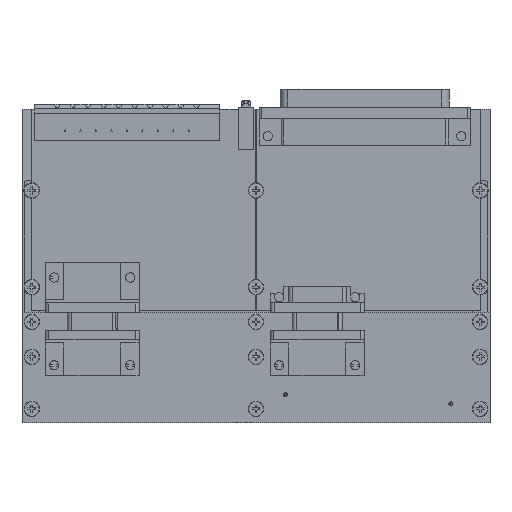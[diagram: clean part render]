
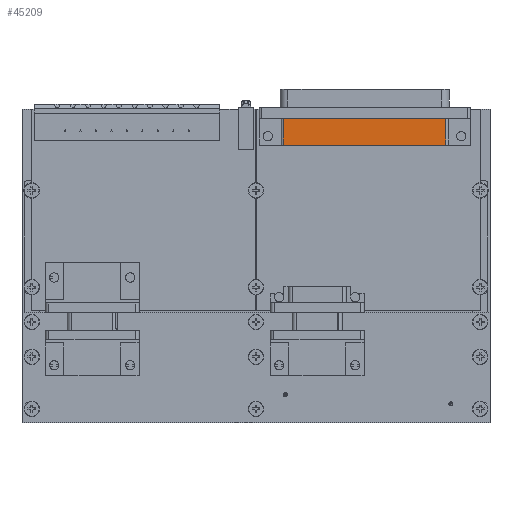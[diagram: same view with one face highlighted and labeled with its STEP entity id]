
A CAD part, left-side view. The second image highlights one B-rep face of the part: STEP entity #45209.
In plain terms, the highlighted planar face has unit normal (-1, 0, 0).
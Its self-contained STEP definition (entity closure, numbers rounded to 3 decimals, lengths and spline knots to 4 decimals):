
#9051=DIRECTION('',(0.,1.,0.));
#9052=VECTOR('',#9051,2.098);
#9053=CARTESIAN_POINT('',(-0.417,0.4455,
3.7489));
#9054=LINE('',#9053,#9052);
#9096=DIRECTION('',(0.,0.,1.));
#9097=VECTOR('',#9096,0.338);
#9098=CARTESIAN_POINT('',(-0.417,0.4455,
3.4109));
#9099=LINE('',#9098,#9097);
#9105=DIRECTION('',(0.,-1.,0.));
#9106=VECTOR('',#9105,2.098);
#9107=CARTESIAN_POINT('',(-0.417,2.5435,
3.4108));
#9108=LINE('',#9107,#9106);
#9118=DIRECTION('',(0.,0.,-1.));
#9119=VECTOR('',#9118,0.338);
#9120=CARTESIAN_POINT('',(-0.417,2.5435,
3.7488));
#9121=LINE('',#9120,#9119);
#33302=CARTESIAN_POINT('',(-0.417,2.5435,
3.7488));
#33303=CARTESIAN_POINT('',(-0.417,2.5435,
3.4108));
#33304=VERTEX_POINT('',#33302);
#33305=VERTEX_POINT('',#33303);
#33310=CARTESIAN_POINT('',(-0.417,0.4455,
3.4109));
#33311=VERTEX_POINT('',#33310);
#33312=CARTESIAN_POINT('',(-0.417,0.4455,
3.7489));
#33313=VERTEX_POINT('',#33312);
#45197=CARTESIAN_POINT('',(-0.417,1.4945,
3.6548));
#45198=DIRECTION('',(-1.,0.,0.));
#45199=DIRECTION('',(0.,1.,0.));
#45200=AXIS2_PLACEMENT_3D('',#45197,#45198,#45199);
#45201=PLANE('',#45200);
#45203=ORIENTED_EDGE('',*,*,#45202,.F.);
#45204=ORIENTED_EDGE('',*,*,#45140,.F.);
#45205=ORIENTED_EDGE('',*,*,#45191,.F.);
#45206=ORIENTED_EDGE('',*,*,#45012,.F.);
#45207=EDGE_LOOP('',(#45203,#45204,#45205,#45206));
#45208=FACE_OUTER_BOUND('',#45207,.F.);
#45209=ADVANCED_FACE('',(#45208),#45201,.T.);
#45012=EDGE_CURVE('',#33305,#33311,#9108,.T.);
#45140=EDGE_CURVE('',#33313,#33304,#9054,.T.);
#45191=EDGE_CURVE('',#33311,#33313,#9099,.T.);
#45202=EDGE_CURVE('',#33304,#33305,#9121,.T.);
